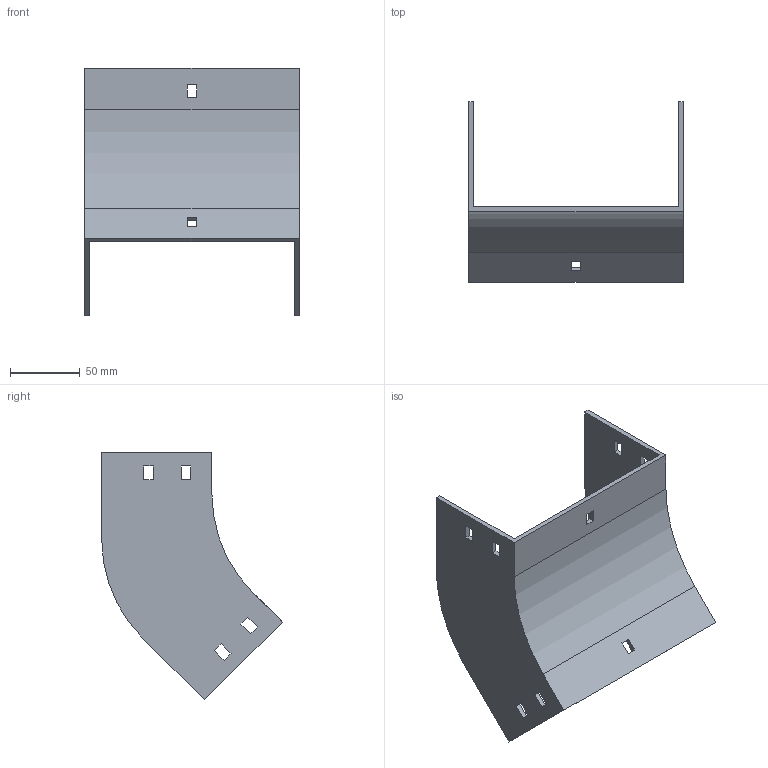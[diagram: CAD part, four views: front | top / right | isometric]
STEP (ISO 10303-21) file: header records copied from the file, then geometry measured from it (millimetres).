
FILE_DESCRIPTION (( 'STEP AP214' ), '1' );
FILE_NAME ('34F1C150.step', '2025-02-21T12:51:21', ( '' ), ( '' ), 'SwSTEP 2.0', 'SolidWorks 2023', '' );
FILE_SCHEMA (( 'AUTOMOTIVE_DESIGN' ));
Length unit declared in the file: millimetre
Products named in the file (1): 34F1C150
Bounding box: 154 x 129.5 x 177.79 mm (x, y, z)
Volume: 166704.2 mm3; surface area: 99981.8 mm2
Topology: 1 solids, 1 shells, 58 faces, 168 edges, 112 vertices
Faces by surface type: plane 54, cylinder 4
Entity records: 1943 total; most frequent: CARTESIAN_POINT 339, ORIENTED_EDGE 336, DIRECTION 294, EDGE_CURVE 168, LINE 160, VECTOR 160, VERTEX_POINT 112, EDGE_LOOP 78
